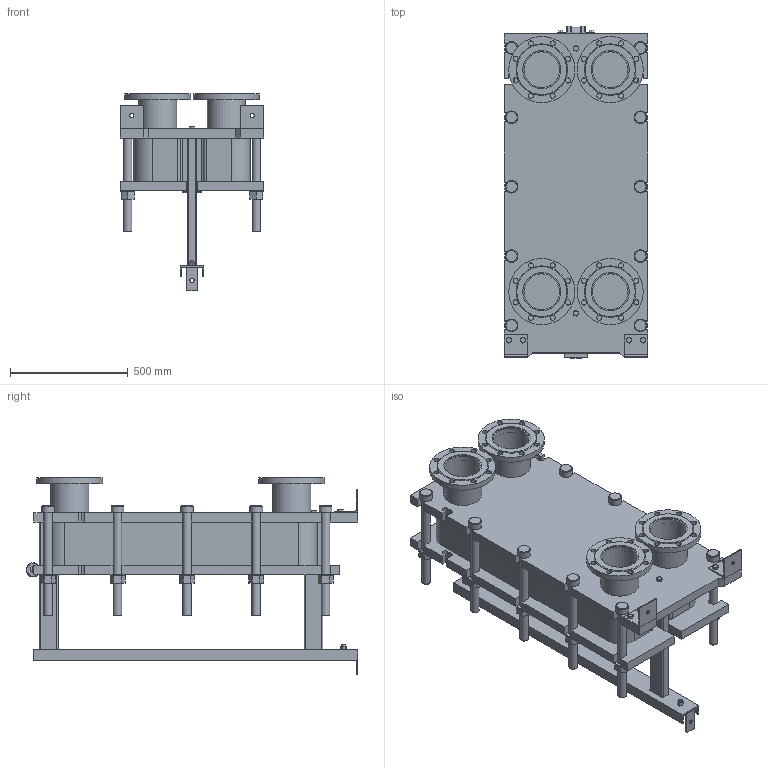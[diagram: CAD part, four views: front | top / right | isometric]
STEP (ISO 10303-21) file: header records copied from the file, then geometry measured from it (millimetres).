
FILE_DESCRIPTION(/* description */ (''),/* implementation_level */ '2;1');
FILE_NAME(/* name */ 'C:\Users\zhuro\Desktop\ENCO\TO\ЭН-041\ЭН-0,5-041-53-1.stp',/* time_stamp */ '2022-06-06T10:53:18+03:00',/* author */ ('zhuro'),/* organization */ (''),/* preprocessor_version */ 'ST-DEVELOPER v18.1',/* originating_system */ 'Autodesk Inventor 2022',/* authorisation */ '');
FILE_SCHEMA (('AUTOMOTIVE_DESIGN { 1 0 10303 214 3 1 1 }'));
Length unit declared in the file: millimetre
Products named in the file (1): ЭН-0,5-041-53-1
Bounding box: 610 x 1406.5 x 837.5 mm (x, y, z)
Volume: 180011998.1 mm3; surface area: 7988199.7 mm2
Topology: 52 solids, 52 shells, 711 faces, 1696 edges, 1094 vertices
Faces by surface type: plane 487, cylinder 177, cone 41, torus 6
Full cylindrical faces by diameter (mm): 8 x4, 10 x2, 16 x8, 18 x3, 22 x32, 36 x24, 50 x1, 54 x10, 60 x12, 151 x4, 161 x8, 280 x4
Entity records: 22667 total; most frequent: CARTESIAN_POINT 5230, DIRECTION 3644, ORIENTED_EDGE 3392, EDGE_CURVE 1696, AXIS2_PLACEMENT_3D 1272, LINE 1100, VECTOR 1100, VERTEX_POINT 1094
